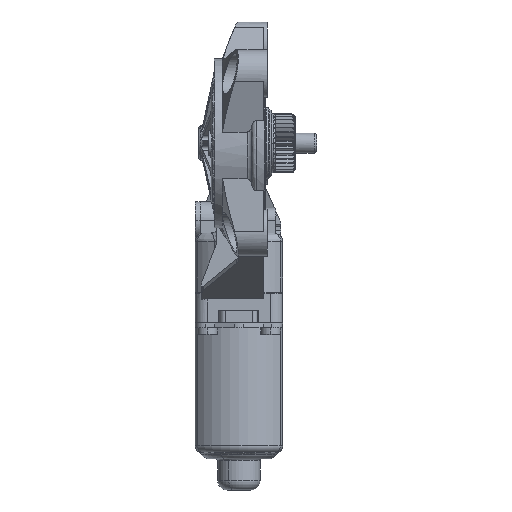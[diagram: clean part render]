
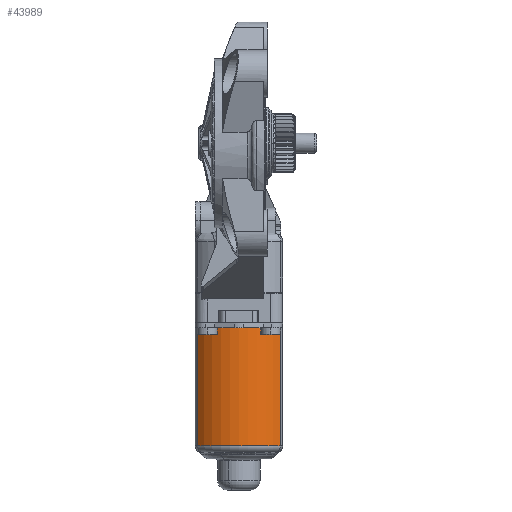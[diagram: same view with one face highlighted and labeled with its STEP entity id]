
A CAD part, front view. The second image highlights one B-rep face of the part: STEP entity #43989.
In plain terms, the highlighted cylindrical face has radius 21.9 mm (diameter 43.8 mm), a partial arc.
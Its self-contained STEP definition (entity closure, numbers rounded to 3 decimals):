
#43962=AXIS2_PLACEMENT_3D('Cylinder Axis2P3D',#43959,#43960,#43961) ;
#43966=AXIS2_PLACEMENT_3D('Circle Axis2P3D',#43964,#43965,$) ;
#43973=AXIS2_PLACEMENT_3D('Circle Axis2P3D',#43971,#43972,$) ;
#39843=CARTESIAN_POINT('Vertex',(16.517,-14.381,-49.3)) ;
#39857=CARTESIAN_POINT('Vertex',(16.517,-14.381,-2.)) ;
#39860=CARTESIAN_POINT('Line Origine',(16.517,-14.381,-26.)) ;
#43959=CARTESIAN_POINT('Axis2P3D Location',(0.,0.,-26.)) ;
#43964=CARTESIAN_POINT('Axis2P3D Location',(0.,0.,-49.3)) ;
#43968=CARTESIAN_POINT('Vertex',(-16.517,-14.381,-49.3)) ;
#43971=CARTESIAN_POINT('Axis2P3D Location',(0.,0.,-2.)) ;
#43975=CARTESIAN_POINT('Vertex',(-16.517,-14.381,-2.)) ;
#43978=CARTESIAN_POINT('Line Origine',(-16.517,-14.381,-26.)) ;
#39861=DIRECTION('Vector Direction',(0.,0.,-1.)) ;
#43960=DIRECTION('Axis2P3D Direction',(0.,0.,-1.)) ;
#43961=DIRECTION('Axis2P3D XDirection',(0.754,-0.657,0.)) ;
#43965=DIRECTION('Axis2P3D Direction',(0.,0.,-1.)) ;
#43972=DIRECTION('Axis2P3D Direction',(0.,0.,-1.)) ;
#43979=DIRECTION('Vector Direction',(0.,0.,-1.)) ;
#39862=VECTOR('Line Direction',#39861,1.) ;
#43980=VECTOR('Line Direction',#43979,1.) ;
#43984=ORIENTED_EDGE('',*,*,#43970,.F.) ;
#43985=ORIENTED_EDGE('',*,*,#39864,.F.) ;
#43986=ORIENTED_EDGE('',*,*,#43977,.T.) ;
#43987=ORIENTED_EDGE('',*,*,#43982,.T.) ;
#43989=ADVANCED_FACE('PartBody',(#43988),#43963,.T.) ;
#43967=CIRCLE('generated circle',#43966,21.9) ;
#43974=CIRCLE('generated circle',#43973,21.9) ;
#43963=CYLINDRICAL_SURFACE('generated cylinder',#43962,21.9) ;
#39864=EDGE_CURVE('',#39858,#39844,#39863,.T.) ;
#43970=EDGE_CURVE('',#39844,#43969,#43967,.T.) ;
#43977=EDGE_CURVE('',#39858,#43976,#43974,.T.) ;
#43982=EDGE_CURVE('',#43976,#43969,#43981,.T.) ;
#43983=EDGE_LOOP('',(#43984,#43985,#43986,#43987)) ;
#43988=FACE_OUTER_BOUND('',#43983,.T.) ;
#39863=LINE('Line',#39860,#39862) ;
#43981=LINE('Line',#43978,#43980) ;
#39844=VERTEX_POINT('',#39843) ;
#39858=VERTEX_POINT('',#39857) ;
#43969=VERTEX_POINT('',#43968) ;
#43976=VERTEX_POINT('',#43975) ;
